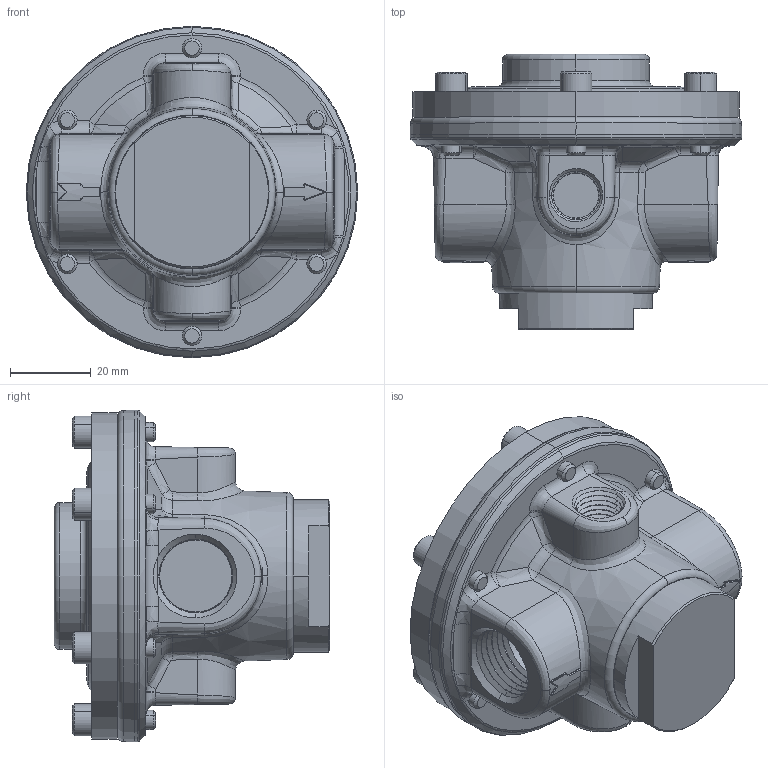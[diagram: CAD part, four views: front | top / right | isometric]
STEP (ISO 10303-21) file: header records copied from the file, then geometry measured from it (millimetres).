
FILE_DESCRIPTION (( 'STEP AP203' ), '1' );
FILE_NAME ('4GDR-500B-PO.STEP', '2013-03-14T12:06:51', ( '' ), ( '' ), 'SwSTEP 2.0', 'SolidWorks 2011', '' );
FILE_SCHEMA (( 'CONFIG_CONTROL_DESIGN' ));
Length unit declared in the file: inch
Products named in the file (2): 4GDR-500B-PO; Part4^4GDR-500B-PO_CM
Assembly tree (1 placements, depth 2):
  4GDR-500B-PO
    Part4^4GDR-500B-PO_CM
Bounding box: 82.3 x 68.38 x 82.3 mm (x, y, z)
Volume: 161283.7 mm3; surface area: 28908.7 mm2
Topology: 1 solids, 1 shells, 676 faces, 1494 edges, 824 vertices
Faces by surface type: cone 290, bspline 129, plane 123, cylinder 98, torus 27, sphere 9
Entity records: 23217 total; most frequent: CARTESIAN_POINT 9097, ORIENTED_EDGE 2958, DIRECTION 2872, EDGE_CURVE 1479, AXIS2_PLACEMENT_3D 1153, VERTEX_POINT 824, EDGE_LOOP 695, ADVANCED_FACE 676
